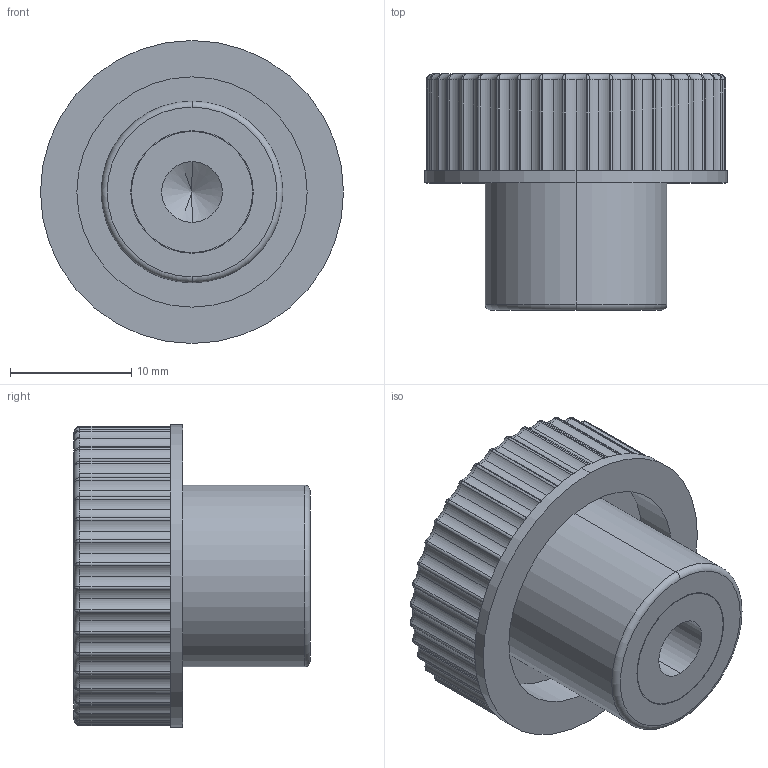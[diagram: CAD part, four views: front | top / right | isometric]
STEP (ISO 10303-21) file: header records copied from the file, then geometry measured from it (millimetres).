
FILE_DESCRIPTION (( 'STEP AP203' ), '1' );
FILE_NAME ('AP-2031-25-M6.STEP', '2015-11-23T10:48:53', ( '' ), ( '' ), 'SwSTEP 2.0', 'SolidWorks 2014', '' );
FILE_SCHEMA (( 'CONFIG_CONTROL_DESIGN' ));
Length unit declared in the file: millimetre
Products named in the file (1): AP-2031-25-M6
Bounding box: 25 x 19.5 x 25 mm (x, y, z)
Volume: 4873.1 mm3; surface area: 3690.2 mm2
Topology: 2 solids, 2 shells, 256 faces, 650 edges, 363 vertices
Faces by surface type: cylinder 148, torus 55, bspline 40, plane 9, cone 2, sphere 2
Entity records: 8753 total; most frequent: CARTESIAN_POINT 2794, DIRECTION 1336, ORIENTED_EDGE 1216, EDGE_CURVE 608, AXIS2_PLACEMENT_3D 593, CIRCLE 376, VERTEX_POINT 363, EDGE_LOOP 265
